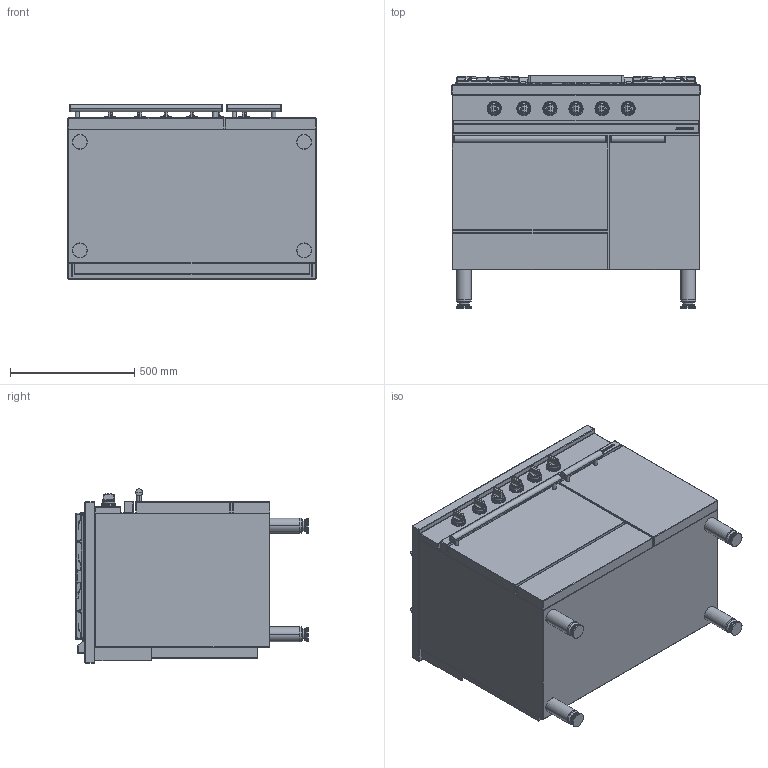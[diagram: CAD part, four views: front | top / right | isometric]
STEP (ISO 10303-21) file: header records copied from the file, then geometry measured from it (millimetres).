
FILE_DESCRIPTION((''),'2;1');
FILE_NAME('CG1051GACF_EXPORT_STEP_ASM','2017-11-22T',('r.avril'),(''),'PRO/ENGINEER BY PARAMETRIC TECHNOLOGY CORPORATION, 2014200','PRO/ENGINEER BY PARAMETRIC TECHNOLOGY CORPORATION, 2014200','');
FILE_SCHEMA(('AP203_CONFIGURATION_CONTROLLED_3D_DESIGN_OF_MECHANICAL_PARTS_AND_ASSEMBLIES_MIM_LF { 1 0 10303 403 2 1 2 }'));
Products named in the file (15): FOURNEAUX_AMB_1051A_EXPORT_STEP; TABLE_1000_CLASSIQUE; 3KW; 5KW; 1_5KW; 4KW; 65062008; 65062012; 65149005; 90000549_ASM; 6537024; 90000487_ASM; TABLE_1000_TRADITION_ASM; MANETTE_AMB_EXPORT_STEP; CG1051GACF_EXPORT_STEP_ASM
Assembly tree (28 placements, depth 4):
  CG1051GACF_EXPORT_STEP_ASM
    FOURNEAUX_AMB_1051A_EXPORT_STEP
    TABLE_1000_TRADITION_ASM
      TABLE_1000_CLASSIQUE
      3KW  x2
      5KW
      1_5KW
      4KW
      90000549_ASM
        65062008
        65062012
        65149005  x4
      90000487_ASM  x2
        6537024
        65149005
    MANETTE_AMB_EXPORT_STEP  x6
Bounding box: 1000 x 937 x 703 mm (x, y, z)
Volume: 457492918.5 mm3; surface area: 8152668.1 mm2
Topology: 48 solids, 66 shells, 4986 faces, 13387 edges, 8926 vertices
Faces by surface type: plane 2090, cylinder 1169, bspline 988, cone 281, torus 210, sphere 208, extrusion 40
Entity records: 169447 total; most frequent: CARTESIAN_POINT 48500, ORIENTED_EDGE 18598, DIRECTION 16949, EDGE_CURVE 9523, PRESENTATION_STYLE_ASSIGNMENT 8791, STYLED_ITEM 8791, CURVE_STYLE 8571, VECTOR 6384
